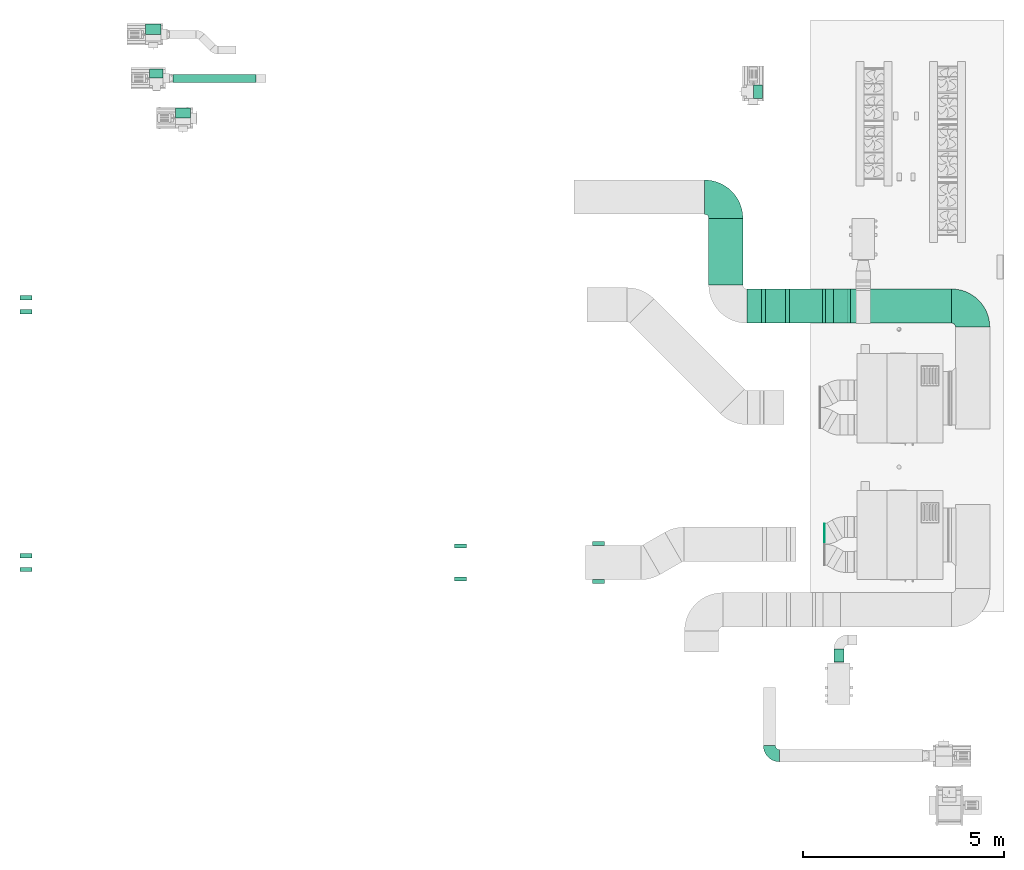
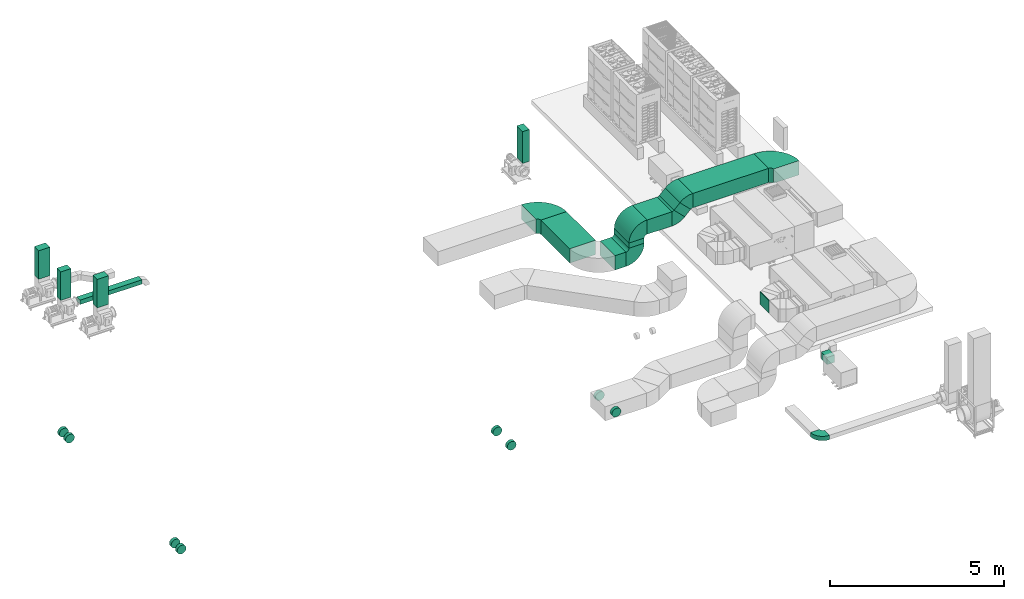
# One storey, part 3 of 10: 15 flow fittings, 13 flow segments.
"""IFC2X3 building model written with IfcOpenShell, lengths in millimetres."""

from ifc_helpers import new_model, entity, si_unit, converted_unit, derived_unit, direction, frame, frame_2d, origin, origin_2d_with_axis, place, context, subcontext, project, spatial, polyline, circle_curve, parameter, trimmed, segment, composite_curve, rectangle, outline, extrude, faceted_brep, source, transform, mapped, material, type_object, type_shapes, element, save


model = new_model("IFC2X3")

# Units and contexts
model_context = context("Model", 3, precision=0.01, world=origin(), true_north=direction((6.123233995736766e-17, 1.0)))
body_context = subcontext(model_context, "Body", "Model", "MODEL_VIEW")
ifc_project = project(units=[si_unit("LENGTHUNIT", "METRE", prefix="MILLI"), converted_unit("PLANEANGLEUNIT", "DEGREE", entity("IfcPlaneAngleMeasure", 0.017453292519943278), si_unit("PLANEANGLEUNIT", "RADIAN"), dimensions=[0, 0, 0, 0, 0, 0, 0]), si_unit("AREAUNIT", "SQUARE_METRE"), derived_unit("THERMALTRANSMITTANCEUNIT", [(si_unit("MASSUNIT", "GRAM", prefix="KILO"), 1), (si_unit("THERMODYNAMICTEMPERATUREUNIT", "KELVIN"), -1), (si_unit("TIMEUNIT", "SECOND"), -3)])], contexts=[model_context])

# Site, building, storey
site_placement = place(None, origin())
site = spatial("IfcSite", under=ifc_project, at=site_placement, Name="Default", CompositionType="ELEMENT")
building_placement = place(site_placement, origin())
building = spatial("IfcBuilding", under=site, at=building_placement, Name="Praça Pedro II, 1301 - Centro (Sul), Teresina - PI, 64001-100", CompositionType="ELEMENT")
storey_placement = place(building_placement, frame((0.0, 0.0, 9040.0)))
storey = spatial("IfcBuildingStorey", under=building, at=storey_placement, Name="LAJE TÉCNICA", CompositionType="ELEMENT", Elevation=9040.0)

# Flow segment
duct_segment_type_1 = type_object("IfcDuctSegmentType", Name="Duto retangular:Raios cotovelos / tês", PredefinedType="NOTDEFINED")
flow_segment_1_placement = place(storey_placement, origin())
element("IfcFlowSegment", 1, at=flow_segment_1_placement, inside=storey, type_object=duct_segment_type_1, Name="Duto retangular:Raios cotovelos / tês", ObjectType="Duto retangular:Raios cotovelos / tês", context=body_context, shape_type="SweptSolid", body=[
    extrude(rectangle(XDim=16.814347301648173, YDim=515.0000000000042, at=frame_2d((4.330757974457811e-12, 0.0), x_axis=(1.0, 0.0))), frame((35560.06972991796, -63945.90104951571, 1395.5482010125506), z_axis=(0.0, 0.0, 1.0), x_axis=(-1.0, 0.0, 0.0)), (0.0, 0.0, 1.0), 446.999999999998),
])

# Flow fittings
ifc_material = material(Name="<Unnamed>")
duct_fitting_type_1 = type_object("IfcDuctFittingType", Name="M_Encaixe de duto redondo:Padrão", PredefinedType="NOTDEFINED", material=ifc_material)
shared_shape_1 = source(origin(), body_context, "Body", "Brep", [
    faceted_brep([(101.6000000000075, 0.0, -150.0), (101.6000000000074, 38.82285676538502, -144.88887394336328), (101.60000000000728, 75.0, -129.90381056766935), (101.6000000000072, 106.06601717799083, -106.06601717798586), (101.60000000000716, 129.90381056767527, -75.0), (101.6000000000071, 144.8888739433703, -38.82285676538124), (101.60000000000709, 150.0, 0.0), (101.6000000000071, 144.88887394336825, 38.82285676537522), (101.60000000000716, 129.90381056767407, 75.0), (101.6000000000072, 106.06601717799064, 106.0660171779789), (101.60000000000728, 75.0, 129.90381056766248), (101.6000000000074, 38.82285676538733, 144.88887394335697), (101.6000000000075, 0.0, 150.0), (101.6000000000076, -38.82285676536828, 144.88887394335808), (101.6000000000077, -75.0, 129.90381056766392), (101.60000000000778, -106.0660171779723, 106.06601717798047), (101.60000000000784, -129.90381056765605, 75.0), (101.60000000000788, -144.88887394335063, 38.822856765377), (101.6000000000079, -150.0, 0.0), (101.60000000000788, -144.88887394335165, -38.8228567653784), (101.60000000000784, -129.90381056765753, -75.0), (101.60000000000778, -106.0660171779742, -106.06601717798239), (101.6000000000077, -75.0, -129.90381056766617), (101.6000000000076, -38.82285676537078, -144.88887394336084), (0.0, 0.0, 150.0), (-6.095999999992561, 0.0, 150.0), (-6.095999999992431, -38.82285676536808, 144.88887394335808), (0.0, -38.82285676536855, 144.88887394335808), (-6.09599999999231, -75.0, 129.90381056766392), (0.0, -75.0, 129.90381056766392), (-6.095999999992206, -106.06601717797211, 106.06601717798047), (0.0, -106.06601717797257, 106.06601717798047), (0.0, -129.9038105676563, 75.0), (-6.095999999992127, -129.90381056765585, 75.0), (-6.0959999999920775, -144.88887394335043, 38.822856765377), (0.0, -144.88887394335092, 38.82285676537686), (-6.09599999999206, -150.0, 0.0), (0.0, -150.0, 0.0), (-6.0959999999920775, -144.88887394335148, -38.8228567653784), (0.0, -144.88887394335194, -38.8228567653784), (-6.095999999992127, -129.90381056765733, -75.0), (0.0, -129.90381056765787, -75.0), (-6.095999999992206, -106.066017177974, -106.06601717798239), (0.0, -106.06601717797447, -106.06601717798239), (0.0, -75.0, -129.90381056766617), (-6.09599999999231, -75.0, -129.90381056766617), (-6.095999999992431, -38.822856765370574, -144.88887394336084), (0.0, -38.82285676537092, -144.88887394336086), (-6.095999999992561, 0.0, -150.0), (0.0, 0.0, -150.0), (0.0, 75.0, -129.90381056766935), (0.0, 38.82285676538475, -144.88887394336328), (-6.095999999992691, 38.82285676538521, -144.88887394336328), (-6.095999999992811, 75.0, -129.90381056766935), (-6.095999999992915, 106.06601717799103, -106.06601717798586), (0.0, 106.06601717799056, -106.06601717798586), (0.0, 129.903810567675, -75.0), (-6.095999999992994, 129.9038105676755, -75.0), (-6.095999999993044, 144.8888739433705, -38.82285676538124), (0.0, 144.88887394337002, -38.82285676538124), (-6.0959999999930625, 150.0, 0.0), (0.0, 150.0, 0.0), (-6.095999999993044, 144.88887394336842, 38.82285676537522), (0.0, 144.88887394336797, 38.82285676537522), (-6.095999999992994, 129.90381056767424, 75.0), (0.0, 129.9038105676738, 75.0), (-6.095999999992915, 106.06601717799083, 106.0660171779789), (0.0, 106.06601717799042, 106.06601717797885), (0.0, 75.0, 129.90381056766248), (-6.095999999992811, 75.0, 129.90381056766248), (-6.095999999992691, 38.82285676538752, 144.88887394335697), (0.0, 38.82285676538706, 144.88887394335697)], [[[0, 1, 2, 3, 4, 5, 6, 7, 8, 9, 10, 11, 12, 13, 14, 15, 16, 17, 18, 19, 20, 21, 22, 23]], [[13, 12, 24, 25, 26, 27]], [[14, 13, 27, 26, 28, 29]], [[29, 28, 30, 31, 15, 14]], [[17, 16, 32, 33, 34, 35]], [[18, 17, 35, 34, 36, 37]], [[31, 30, 33, 32, 16, 15]], [[19, 18, 37, 36, 38, 39]], [[20, 19, 39, 38, 40, 41]], [[41, 40, 42, 43, 21, 20]], [[23, 22, 44, 45, 46, 47]], [[0, 23, 47, 46, 48, 49]], [[43, 42, 45, 44, 22, 21]], [[50, 2, 1, 51, 52, 53]], [[51, 1, 0, 49, 48, 52]], [[50, 53, 54, 55, 3, 2]], [[5, 4, 56, 57, 58, 59]], [[6, 5, 59, 58, 60, 61]], [[55, 54, 57, 56, 4, 3]], [[7, 6, 61, 60, 62, 63]], [[8, 7, 63, 62, 64, 65]], [[65, 64, 66, 67, 9, 8]], [[11, 10, 68, 69, 70, 71]], [[12, 11, 71, 70, 25, 24]], [[67, 66, 69, 68, 10, 9]], [[46, 45, 42, 40, 38, 36, 34, 33, 30, 28, 26, 25, 70, 69, 66, 64, 62, 60, 58, 57, 54, 53, 52, 48]]]),
])
type_shapes(duct_fitting_type_1, [shared_shape_1])
for number, where, z_axis, x_axis in (
    (2, (29934.428567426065, -64232.40803541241, 480.0), (0.0, 0.0, -1.0), (0.0, 1.0, 0.0)),
    (3, (15701.321071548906, -58373.4212778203, 480.0), (0.0, 0.0, -1.0), (0.0, -1.0, 0.0)),
    (4, (15701.58545236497, -64782.408035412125, 480.0), (0.0, 0.0, -1.0), (0.0, -1.0, 0.0)),
    (5, (26500.666944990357, -64294.90803541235, 480.0), (0.0, 0.0, -1.0), (0.0, 1.0, 0.0)),
):
    element("IfcFlowFitting", number, at=place(storey_placement, frame(where, z_axis=z_axis, x_axis=x_axis)), inside=storey, type_object=duct_fitting_type_1, material=ifc_material, Name="M_Encaixe de duto redondo:Padrão", ObjectType="M_Encaixe de duto redondo:Padrão", context=body_context, shape_type="MappedRepresentation", body=[
        mapped(shared_shape_1, transform((0.0, 0.0, 0.0), scale=1.0)),
    ])
duct_fitting_type_2 = type_object("IfcDuctFittingType", Name="M_Encaixe de duto redondo:Padrão", PredefinedType="NOTDEFINED", material=ifc_material)
shared_shape_2 = source(origin(), body_context, "Body", "Brep", [
    faceted_brep([(101.6000000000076, 38.82285676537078, -144.88887394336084), (101.6000000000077, 75.0, -129.90381056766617), (101.60000000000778, 106.0660171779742, -106.06601717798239), (101.60000000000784, 129.90381056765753, -75.0), (101.60000000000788, 144.88887394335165, -38.8228567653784), (101.6000000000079, 150.0, 0.0), (101.60000000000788, 144.88887394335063, 38.822856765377), (101.60000000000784, 129.90381056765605, 75.0), (101.60000000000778, 106.0660171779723, 106.06601717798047), (101.6000000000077, 75.0, 129.90381056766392), (101.6000000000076, 38.82285676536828, 144.88887394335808), (101.6000000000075, 0.0, 150.0), (101.6000000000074, -38.82285676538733, 144.88887394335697), (101.60000000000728, -75.0, 129.90381056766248), (101.6000000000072, -106.06601717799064, 106.0660171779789), (101.60000000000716, -129.90381056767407, 75.0), (101.6000000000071, -144.88887394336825, 38.82285676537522), (101.60000000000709, -150.0, 0.0), (101.6000000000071, -144.8888739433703, -38.82285676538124), (101.60000000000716, -129.90381056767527, -75.0), (101.6000000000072, -106.06601717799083, -106.06601717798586), (101.60000000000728, -75.0, -129.90381056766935), (101.6000000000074, -38.82285676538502, -144.88887394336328), (101.6000000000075, 0.0, -150.0), (0.0, 38.82285676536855, 144.88887394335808), (-6.095999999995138, 38.82285676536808, 144.88887394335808), (-6.095999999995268, 0.0, 150.0), (0.0, 0.0, 150.0), (0.0, 75.0, 129.90381056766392), (-6.095999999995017, 75.0, 129.90381056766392), (0.0, 106.06601717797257, 106.06601717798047), (-6.0959999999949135, 106.06601717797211, 106.06601717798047), (0.0, 144.88887394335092, 38.82285676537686), (-6.095999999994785, 144.88887394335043, 38.822856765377), (-6.095999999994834, 129.90381056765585, 75.0), (0.0, 129.9038105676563, 75.0), (0.0, 150.0, 0.0), (-6.095999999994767, 150.0, 0.0), (0.0, 144.88887394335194, -38.8228567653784), (-6.095999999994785, 144.88887394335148, -38.8228567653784), (0.0, 129.90381056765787, -75.0), (-6.095999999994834, 129.90381056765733, -75.0), (0.0, 106.06601717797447, -106.06601717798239), (-6.0959999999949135, 106.066017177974, -106.06601717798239), (0.0, 38.82285676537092, -144.88887394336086), (-6.095999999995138, 38.822856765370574, -144.88887394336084), (-6.095999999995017, 75.0, -129.90381056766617), (0.0, 75.0, -129.90381056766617), (0.0, 0.0, -150.0), (-6.095999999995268, 0.0, -150.0), (0.0, -75.0, -129.90381056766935), (-6.095999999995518, -75.0, -129.90381056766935), (-6.095999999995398, -38.82285676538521, -144.88887394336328), (0.0, -38.82285676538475, -144.88887394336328), (0.0, -106.06601717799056, -106.06601717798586), (-6.095999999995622, -106.06601717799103, -106.06601717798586), (0.0, -144.88887394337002, -38.82285676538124), (-6.095999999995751, -144.8888739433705, -38.82285676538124), (-6.095999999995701, -129.9038105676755, -75.0), (0.0, -129.903810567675, -75.0), (0.0, -150.0, 0.0), (-6.09599999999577, -150.0, 0.0), (0.0, -144.88887394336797, 38.82285676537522), (-6.095999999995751, -144.88887394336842, 38.82285676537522), (0.0, -129.9038105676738, 75.0), (-6.095999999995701, -129.90381056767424, 75.0), (0.0, -106.06601717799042, 106.06601717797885), (-6.095999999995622, -106.06601717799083, 106.0660171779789), (0.0, -38.82285676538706, 144.88887394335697), (-6.095999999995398, -38.82285676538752, 144.88887394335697), (-6.095999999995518, -75.0, 129.90381056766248), (0.0, -75.0, 129.90381056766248)], [[[0, 1, 2, 3, 4, 5, 6, 7, 8, 9, 10, 11, 12, 13, 14, 15, 16, 17, 18, 19, 20, 21, 22, 23]], [[24, 25, 26, 27, 11, 10]], [[28, 29, 25, 24, 10, 9]], [[9, 8, 30, 31, 29, 28]], [[32, 33, 34, 35, 7, 6]], [[36, 37, 33, 32, 6, 5]], [[8, 7, 35, 34, 31, 30]], [[38, 39, 37, 36, 5, 4]], [[40, 41, 39, 38, 4, 3]], [[3, 2, 42, 43, 41, 40]], [[44, 45, 46, 47, 1, 0]], [[48, 49, 45, 44, 0, 23]], [[2, 1, 47, 46, 43, 42]], [[22, 21, 50, 51, 52, 53]], [[23, 22, 53, 52, 49, 48]], [[21, 20, 54, 55, 51, 50]], [[56, 57, 58, 59, 19, 18]], [[60, 61, 57, 56, 18, 17]], [[20, 19, 59, 58, 55, 54]], [[62, 63, 61, 60, 17, 16]], [[64, 65, 63, 62, 16, 15]], [[15, 14, 66, 67, 65, 64]], [[68, 69, 70, 71, 13, 12]], [[27, 26, 69, 68, 12, 11]], [[14, 13, 71, 70, 67, 66]], [[49, 52, 51, 55, 58, 57, 61, 63, 65, 67, 70, 69, 26, 25, 29, 31, 34, 33, 37, 39, 41, 43, 46, 45]]]),
])
type_shapes(duct_fitting_type_2, [shared_shape_2])
for number, where, z_axis, x_axis in (
    (6, (29934.428567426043, -65082.408035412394, 480.0), (0.0, 0.0, -1.0), (0.0, -1.0, 0.0)),
    (7, (15701.32107154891, -58123.421277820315, 480.0), (0.0, 0.0, -1.0), (0.0, 1.0, 0.0)),
    (8, (15701.58545236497, -64532.40803541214, 480.0), (0.0, 0.0, -1.0), (0.0, 1.0, 0.0)),
    (9, (26500.666944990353, -65019.908035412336, 480.0), (0.0, 0.0, -1.0), (0.0, -1.0, 0.0)),
):
    element("IfcFlowFitting", number, at=place(storey_placement, frame(where, z_axis=z_axis, x_axis=x_axis)), inside=storey, type_object=duct_fitting_type_2, material=ifc_material, Name="M_Encaixe de duto redondo:Padrão", ObjectType="M_Encaixe de duto redondo:Padrão", context=body_context, shape_type="MappedRepresentation", body=[
        mapped(shared_shape_2, transform((0.0, 0.0, 0.0), scale=1.0)),
    ])

# Flow segments
duct_segment_type_2 = type_object("IfcDuctSegmentType", Name="Duto retangular:Raios cotovelos / torneiras", PredefinedType="NOTDEFINED")
flow_segment_2_placement = place(storey_placement, origin())
element("IfcFlowSegment", 10, at=flow_segment_2_placement, inside=storey, type_object=duct_segment_type_2, Name="Duto retangular:Raios cotovelos / torneiras", ObjectType="Duto retangular:Raios cotovelos / torneiras", context=body_context, shape_type="SweptSolid", body=[
    extrude(rectangle(XDim=1658.9189386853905, YDim=850.0000000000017, at=frame_2d((-4.376943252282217e-12, -2.1600499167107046e-12), x_axis=(1.0, 0.0))), frame((33101.32107154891, -56925.75337195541, 250.0), z_axis=(0.0, 0.0, 1.0), x_axis=(0.0, -1.0, 0.0)), (0.0, 0.0, 1.0), 500.00000000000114),
])
flow_segment_3_placement = place(storey_placement, origin())
element("IfcFlowSegment", 11, at=flow_segment_3_placement, inside=storey, type_object=duct_segment_type_2, Name="Duto retangular:Raios cotovelos / torneiras", ObjectType="Duto retangular:Raios cotovelos / torneiras", context=body_context, shape_type="SweptSolid", body=[
    extrude(rectangle(XDim=364.999999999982, YDim=849.9999999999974, at=frame_2d((-2.1600499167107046e-12, 0.0), x_axis=(1.0, 0.0))), frame((33808.821071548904, -58280.212841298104, 250.0)), (0.0, 0.0, 1.0), 500.00000000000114),
])
flow_segment_4_placement = place(storey_placement, origin())
element("IfcFlowSegment", 12, at=flow_segment_4_placement, inside=storey, type_object=duct_segment_type_2, Name="Duto retangular:Raios cotovelos / torneiras", ObjectType="Duto retangular:Raios cotovelos / torneiras", context=body_context, shape_type="SweptSolid", body=[
    extrude(rectangle(XDim=499.999999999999, YDim=849.9999999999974, at=origin_2d_with_axis()), frame((34341.32107154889, -58280.212841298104, 850.0), z_axis=(0.0, 0.0, 1.0), x_axis=(-1.0, 0.0, 0.0)), (0.0, 0.0, 1.0), 180.00000000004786),
])
flow_segment_5_placement = place(storey_placement, origin())
element("IfcFlowSegment", 13, at=flow_segment_5_placement, inside=storey, type_object=duct_segment_type_2, Name="Duto retangular:Raios cotovelos / torneiras", ObjectType="Duto retangular:Raios cotovelos / torneiras", context=body_context, shape_type="SweptSolid", body=[
    extrude(rectangle(XDim=2053.610698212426, YDim=199.99999999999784, at=frame_2d((0.0, -4.334310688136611e-12), x_axis=(1.0, 0.0))), frame((20388.70232246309, -52617.49886481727, 405.0), z_axis=(0.0, 0.0, 1.0), x_axis=(-1.0, 0.0, 0.0)), (0.0, 0.0, 1.0), 150.00000000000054),
])
flow_segment_6_placement = place(storey_placement, origin())
element("IfcFlowSegment", 14, at=flow_segment_6_placement, inside=storey, type_object=duct_segment_type_2, Name="Duto retangular:Raios cotovelos / torneiras", ObjectType="Duto retangular:Raios cotovelos / torneiras", context=body_context, shape_type="SweptSolid", body=[
    extrude(rectangle(XDim=249.99999999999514, YDim=375.00000000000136, at=origin_2d_with_axis()), frame((19602.186063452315, -53476.37227675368, 800.0), z_axis=(0.0, 0.0, 1.0), x_axis=(0.0, 1.0, 0.0)), (0.0, 0.0, 1.0), 1000.0000000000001),
])
flow_segment_7_placement = place(storey_placement, origin())
element("IfcFlowSegment", 15, at=flow_segment_7_placement, inside=storey, type_object=duct_segment_type_2, Name="Duto retangular:Raios cotovelos / torneiras", ObjectType="Duto retangular:Raios cotovelos / torneiras", context=body_context, shape_type="SweptSolid", body=[
    extrude(rectangle(XDim=249.99999999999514, YDim=375.00000000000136, at=frame_2d((0.0, 2.1600499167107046e-12), x_axis=(1.0, 0.0))), frame((18865.071071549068, -51395.561083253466, 800.0), z_axis=(0.0, 0.0, 1.0), x_axis=(0.0, 1.0, 0.0)), (0.0, 0.0, 1.0), 1000.0000000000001),
])
flow_segment_8_placement = place(storey_placement, origin())
element("IfcFlowSegment", 16, at=flow_segment_8_placement, inside=storey, type_object=duct_segment_type_2, Name="Duto retangular:Raios cotovelos / torneiras", ObjectType="Duto retangular:Raios cotovelos / torneiras", context=body_context, shape_type="SweptSolid", body=[
    extrude(rectangle(XDim=224.00000000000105, YDim=335.0000000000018, at=frame_2d((-8.668621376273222e-12, 0.0), x_axis=(1.0, 0.0))), frame((18945.07107154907, -52501.99886481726, 686.0), z_axis=(0.0, 0.0, 1.0), x_axis=(0.0, 1.0, 0.0)), (0.0, 0.0, 1.0), 1000.0000000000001),
])
flow_segment_9_placement = place(storey_placement, origin())
element("IfcFlowSegment", 17, at=flow_segment_9_placement, inside=storey, type_object=duct_segment_type_2, Name="Duto retangular:Raios cotovelos / torneiras", ObjectType="Duto retangular:Raios cotovelos / torneiras", context=body_context, shape_type="SweptSolid", body=[
    extrude(rectangle(XDim=224.00000000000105, YDim=334.9999999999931, at=origin_2d_with_axis()), frame((33902.38553093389, -52949.461862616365, 536.0), z_axis=(0.0, 0.0, 1.0), x_axis=(-1.0, 0.0, 0.0)), (0.0, 0.0, 1.0), 1114.0000000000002),
])
flow_segment_10_placement = place(storey_placement, origin())
element("IfcFlowSegment", 18, at=flow_segment_10_placement, inside=storey, type_object=duct_segment_type_2, Name="Duto retangular:Raios cotovelos / torneiras", ObjectType="Duto retangular:Raios cotovelos / torneiras", context=body_context, shape_type="SweptSolid", body=[
    extrude(rectangle(XDim=821.015827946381, YDim=849.9999999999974, at=origin_2d_with_axis()), frame((35101.82898552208, -58280.212841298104, 1130.0)), (0.0, 0.0, 1.0), 499.999999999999),
])
flow_segment_11_placement = place(storey_placement, origin())
element("IfcFlowSegment", 19, at=flow_segment_11_placement, inside=storey, type_object=duct_segment_type_2, Name="Duto retangular:Raios cotovelos / torneiras", ObjectType="Duto retangular:Raios cotovelos / torneiras", context=body_context, shape_type="SweptSolid", body=[
    extrude(rectangle(XDim=275.7359312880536, YDim=499.99999999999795, at=frame_2d((2.3021584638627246e-12, 3.822719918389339e-12), x_axis=(1.0, 0.0))), frame((35857.31164632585, -58705.212841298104, 1580.0), z_axis=(0.0, 1.0, 0.0), x_axis=(0.7071067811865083, 0.0, 0.7071067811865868)), (0.0, 0.0, 1.0), 849.9999999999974),
])
flow_segment_12_placement = place(storey_placement, origin())
element("IfcFlowSegment", 20, at=flow_segment_12_placement, inside=storey, type_object=duct_segment_type_2, Name="Duto retangular:Raios cotovelos / torneiras", ObjectType="Duto retangular:Raios cotovelos / torneiras", context=body_context, shape_type="SweptSolid", body=[
    extrude(rectangle(XDim=2514.0346783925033, YDim=849.9999999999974, at=frame_2d((2.1600499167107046e-12, 0.0), x_axis=(1.0, 0.0))), frame((37459.303732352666, -58280.212841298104, 1530.0), z_axis=(0.0, 0.0, 1.0), x_axis=(-1.0, 0.0, 0.0)), (0.0, 0.0, 1.0), 499.999999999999),
])
flow_segment_13_placement = place(storey_placement, origin())
element("IfcFlowSegment", 21, at=flow_segment_13_placement, inside=storey, type_object=duct_segment_type_2, Name="Duto retangular:Raios cotovelos / torneiras", ObjectType="Duto retangular:Raios cotovelos / torneiras", context=body_context, shape_type="SweptSolid", body=[
    extrude(rectangle(XDim=324.8053416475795, YDim=251.89999999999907, at=frame_2d((-4.320099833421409e-12, -2.1671553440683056e-12), x_axis=(1.0, 0.0))), frame((35914.873336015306, -66967.31373692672, 1283.0500000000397), z_axis=(0.0, 0.0, 1.0), x_axis=(0.0, 1.0, 0.0)), (0.0, 0.0, 1.0), 251.89999999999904),
])

# Flow fittings
duct_fitting_type_3 = type_object("IfcDuctFittingType", Name="BTS vanes:1 Splitter Vanes", PredefinedType="NOTDEFINED", material=ifc_material)
shared_shape_3 = source(origin(), body_context, "Body", "SweptSolid", [
    extrude(outline(composite_curve([segment(polyline([(-425.0, -175.0), (75.0, -175.0)]), True, "CONTINUOUS"), segment(trimmed(circle_curve(frame_2d((175.0, -175.0), x_axis=(0.0, 1.0)), 99.99999999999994), [parameter(0.0)], [parameter(90.00000000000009)], True, "PARAMETER"), False, "CONTINUOUS"), segment(polyline([(175.0, -75.0), (175.0, 425.0)]), True, "CONTINUOUS"), segment(trimmed(circle_curve(frame_2d((175.0, -175.0), x_axis=(0.0, 1.0)), 600.0), [parameter(0.0)], [parameter(90.00000000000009)], True, "PARAMETER"), True, "CONTINUOUS")], self_intersect=False)), frame((-175.0, 175.0, -425.0), z_axis=(0.0, 0.0, 1.0), x_axis=(-1.0, 0.0, 0.0)), (0.0, 0.0, 1.0), 850.0),
    extrude(outline(composite_curve([segment(polyline([(-77.63157894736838, -59.210526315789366), (-40.78947368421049, -59.210526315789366)]), True, "CONTINUOUS"), segment(trimmed(circle_curve(frame_2d((59.21052631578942, -59.21052631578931), x_axis=(0.0, 1.0)), 99.99999999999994), [parameter(0.0)], [parameter(90.00000000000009)], True, "PARAMETER"), False, "CONTINUOUS"), segment(polyline([(59.21052631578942, 40.78947368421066), (59.21052631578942, 77.63157894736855)]), True, "CONTINUOUS"), segment(trimmed(circle_curve(frame_2d((59.21052631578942, -59.21052631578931), x_axis=(0.0, 1.0)), 136.8421052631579), [parameter(0.0)], [parameter(90.00000000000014)], True, "PARAMETER"), True, "CONTINUOUS")], self_intersect=False)), frame((-290.7894736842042, 290.7894736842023, -425.0), z_axis=(0.0, 0.0, 1.0), x_axis=(-1.0, 0.0, 0.0)), (0.0, 0.0, 1.0), 850.0),
])
type_shapes(duct_fitting_type_3, [shared_shape_3])
for number, where, z_axis, x_axis, name in (
    (22, (34341.321071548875, -58280.212841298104, 500.0), (0.0, -1.0, 0.0), (1.0, 0.0, 0.0), "BTS vanes:1 Splitter Vanes"),
    (23, (34341.32107154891, -58280.212841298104, 1380.0), (0.0, 1.0, 0.0), (0.0, 0.0, 1.0), "BTS vanes:1 Splitter Vanes"),
):
    element("IfcFlowFitting", number, at=place(storey_placement, frame(where, z_axis=z_axis, x_axis=x_axis)), inside=storey, type_object=duct_fitting_type_3, material=ifc_material, Name=name, ObjectType="BTS vanes:1 Splitter Vanes", context=body_context, shape_type="MappedRepresentation", body=[
        mapped(shared_shape_3, transform((0.0, 0.0, 0.0), scale=1.0)),
    ])
duct_fitting_type_4 = type_object("IfcDuctFittingType", Name="BTS vanes:1 Splitter Vanes", PredefinedType="NOTDEFINED", material=ifc_material)
shared_shape_4 = source(origin(), body_context, "Body", "SweptSolid", [
    extrude(outline(composite_curve([segment(polyline([(-687.5, -262.4999999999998), (162.50000000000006, -262.4999999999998)]), True, "CONTINUOUS"), segment(trimmed(circle_curve(frame_2d((262.5, -262.4999999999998), x_axis=(0.0, 1.0)), 99.99999999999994), [parameter(0.0)], [parameter(90.00000000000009)], True, "PARAMETER"), False, "CONTINUOUS"), segment(polyline([(262.5, -162.4999999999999), (262.5, 687.5000000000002)]), True, "CONTINUOUS"), segment(trimmed(circle_curve(frame_2d((262.5, -262.4999999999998), x_axis=(0.0, 1.0)), 950.0000000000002), [parameter(0.0)], [parameter(90.00000000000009)], True, "PARAMETER"), True, "CONTINUOUS")], self_intersect=False)), frame((-262.49999999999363, 262.4999999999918, -250.0), z_axis=(0.0, 0.0, 1.0), x_axis=(-1.0, 0.0, 0.0)), (0.0, 0.0, 1.0), 500.00000000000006),
    extrude(outline(composite_curve([segment(polyline([(-77.63157894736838, -59.21052631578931), (-40.78947368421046, -59.21052631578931)]), True, "CONTINUOUS"), segment(trimmed(circle_curve(frame_2d((59.21052631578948, -59.21052631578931), x_axis=(0.0, 1.0)), 100.0), [parameter(0.0)], [parameter(90.00000000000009)], True, "PARAMETER"), False, "CONTINUOUS"), segment(polyline([(59.21052631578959, 40.789473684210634), (59.21052631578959, 77.63157894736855)]), True, "CONTINUOUS"), segment(trimmed(circle_curve(frame_2d((59.21052631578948, -59.21052631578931), x_axis=(0.0, 1.0)), 136.84210526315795), [parameter(0.0)], [parameter(90.00000000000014)], True, "PARAMETER"), True, "CONTINUOUS")], self_intersect=False)), frame((-465.78947368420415, 465.7894736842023, -250.0), z_axis=(0.0, 0.0, 1.0), x_axis=(-1.0, 0.0, 0.0)), (0.0, 0.0, 1.0), 500.00000000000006),
])
type_shapes(duct_fitting_type_4, [shared_shape_4])
for number, where, z_axis, x_axis, name in (
    (24, (33101.3210715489, -55571.29390261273, 500.0), (0.0, 0.0, 1.0), (0.0, 1.0, 0.0), "BTS vanes:1 Splitter Vanes"),
    (25, (39241.3210715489, -58280.212841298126, 1780.0), (0.0, 0.0, 1.0), (0.0, 1.0, 0.0), "BTS vanes:1 Splitter Vanes"),
):
    element("IfcFlowFitting", number, at=place(storey_placement, frame(where, z_axis=z_axis, x_axis=x_axis)), inside=storey, type_object=duct_fitting_type_4, material=ifc_material, Name=name, ObjectType="BTS vanes:1 Splitter Vanes", context=body_context, shape_type="MappedRepresentation", body=[
        mapped(shared_shape_4, transform((0.0, 0.0, 0.0), scale=1.0)),
    ])
duct_fitting_type_5 = type_object("IfcDuctFittingType", Name="BTS vanes:1 Splitter Vanes", PredefinedType="NOTDEFINED", material=ifc_material)
shared_shape_5 = source(origin(), body_context, "Body", "SweptSolid", [
    extrude(outline(composite_curve([segment(polyline([(-301.25631329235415, -123.74368670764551), (198.7436867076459, -123.7436867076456)]), True, "CONTINUOUS"), segment(trimmed(circle_curve(frame_2d((298.74368670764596, -123.74368670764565), x_axis=(-0.7071067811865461, 0.7071067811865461)), 100.0), [parameter(0.0)], [parameter(44.99999999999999)], True, "PARAMETER"), False, "CONTINUOUS"), segment(polyline([(228.0330085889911, -53.03300858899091), (-125.52038200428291, 300.5203820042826)]), True, "CONTINUOUS"), segment(trimmed(circle_curve(frame_2d((298.74368670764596, -123.74368670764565), x_axis=(-0.7071067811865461, 0.7071067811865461)), 600.0), [parameter(0.0)], [parameter(44.99999999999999)], True, "PARAMETER"), True, "CONTINUOUS")], self_intersect=False)), frame((-21.23106012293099, 51.256313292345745, -425.0), z_axis=(0.0, 0.0, 1.0), x_axis=(-0.707106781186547, 0.707106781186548, 0.0)), (0.0, 0.0, 1.0), 850.0),
    extrude(outline(composite_curve([segment(polyline([(-35.76341427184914, -41.86816467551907), (1.0786909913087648, -41.86816467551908)]), True, "CONTINUOUS"), segment(trimmed(circle_curve(frame_2d((101.07869099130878, -41.86816467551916), x_axis=(-0.7071067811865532, 0.7071067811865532)), 100.0), [parameter(0.0)], [parameter(44.99999999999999)], True, "PARAMETER"), False, "CONTINUOUS"), segment(polyline([(30.368012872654, 28.84251344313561), (4.3167104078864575, 54.89381590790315)]), True, "CONTINUOUS"), segment(trimmed(circle_curve(frame_2d((101.07869099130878, -41.86816467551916), x_axis=(-0.7071067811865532, 0.7071067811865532)), 136.8421052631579), [parameter(0.0)], [parameter(44.99999999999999)], True, "PARAMETER"), True, "CONTINUOUS")], self_intersect=False)), frame((-103.10658215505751, 248.9213090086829, -425.0), z_axis=(0.0, 0.0, 1.0), x_axis=(-0.7071067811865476, 0.7071067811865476, 0.0)), (0.0, 0.0, 1.0), 850.0),
])
type_shapes(duct_fitting_type_5, [shared_shape_5])
for number, where, z_axis, x_axis, name in (
    (26, (35657.31164632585, -58280.212841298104, 1380.0), (0.0, -1.0, 0.0), (1.0, 0.0, 0.0), "BTS vanes:1 Splitter Vanes"),
    (27, (36057.31164632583, -58280.212841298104, 1780.0), (0.0, 1.0, 0.0), (0.7071067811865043, 0.0, 0.7071067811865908), "BTS vanes:1 Splitter Vanes"),
):
    element("IfcFlowFitting", number, at=place(storey_placement, frame(where, z_axis=z_axis, x_axis=x_axis)), inside=storey, type_object=duct_fitting_type_5, material=ifc_material, Name=name, ObjectType="BTS vanes:1 Splitter Vanes", context=body_context, shape_type="MappedRepresentation", body=[
        mapped(shared_shape_5, transform((0.0, 0.0, 0.0), scale=1.0)),
    ])
duct_fitting_type_6 = type_object("IfcDuctFittingType", Name="BTS vanes:1 Splitter Vanes", PredefinedType="NOTDEFINED", material=ifc_material)
shared_shape_6 = source(origin(), body_context, "Body", "SweptSolid", [
    extrude(outline(composite_curve([segment(polyline([(-275.0, -125.0), (25.0, -125.0)]), True, "CONTINUOUS"), segment(trimmed(circle_curve(frame_2d((125.0, -125.0), x_axis=(0.0, 1.0)), 99.99999999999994), [parameter(0.0)], [parameter(90.00000000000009)], True, "PARAMETER"), False, "CONTINUOUS"), segment(polyline([(125.0, -25.0), (125.0, 275.0)]), True, "CONTINUOUS"), segment(trimmed(circle_curve(frame_2d((125.0, -125.0), x_axis=(0.0, 1.0)), 400.0), [parameter(0.0)], [parameter(90.00000000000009)], True, "PARAMETER"), True, "CONTINUOUS")], self_intersect=False)), frame((-125.0, 125.0, -75.0), z_axis=(0.0, 0.0, 1.0), x_axis=(-1.0, 0.0, 0.0)), (0.0, 0.0, 1.0), 150.0),
    extrude(outline(composite_curve([segment(polyline([(-77.63157894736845, -59.21052631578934), (-40.78947368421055, -59.21052631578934)]), True, "CONTINUOUS"), segment(trimmed(circle_curve(frame_2d((59.21052631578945, -59.21052631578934), x_axis=(0.0, 1.0)), 100.0), [parameter(0.0)], [parameter(90.00000000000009)], True, "PARAMETER"), False, "CONTINUOUS"), segment(polyline([(59.21052631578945, 40.78947368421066), (59.21052631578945, 77.63157894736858)]), True, "CONTINUOUS"), segment(trimmed(circle_curve(frame_2d((59.21052631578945, -59.21052631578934), x_axis=(0.0, 1.0)), 136.84210526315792), [parameter(0.0)], [parameter(90.00000000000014)], True, "PARAMETER"), True, "CONTINUOUS")], self_intersect=False)), frame((-190.78947368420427, 190.78947368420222, -75.0), z_axis=(0.0, 0.0, 1.0), x_axis=(-1.0, 0.0, 0.0)), (0.0, 0.0, 1.0), 150.0),
])
type_shapes(duct_fitting_type_6, [shared_shape_6])
flow_fitting_placement = place(storey_placement, frame((34186.88553093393, -69461.38817958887, 715.0), z_axis=(0.0, 0.0, 1.0), x_axis=(0.0, -1.0, 0.0)))
element("IfcFlowFitting", 28, at=flow_fitting_placement, inside=storey, type_object=duct_fitting_type_6, material=ifc_material, Name="BTS vanes:1 Splitter Vanes", ObjectType="BTS vanes:1 Splitter Vanes", context=body_context, shape_type="MappedRepresentation", body=[
    mapped(shared_shape_6, transform((0.0, 0.0, 0.0), scale=1.0)),
])

save(model, "model.ifc")
